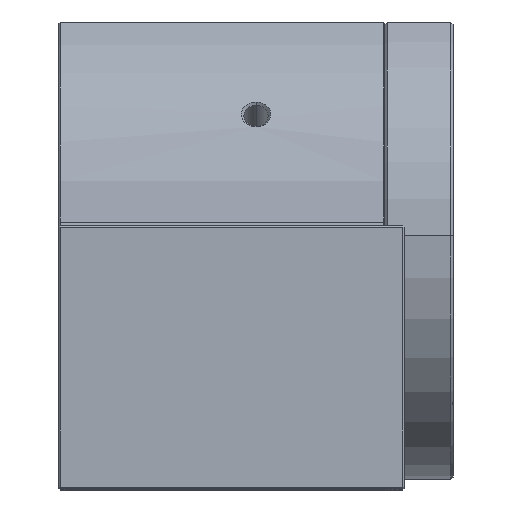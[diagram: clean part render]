
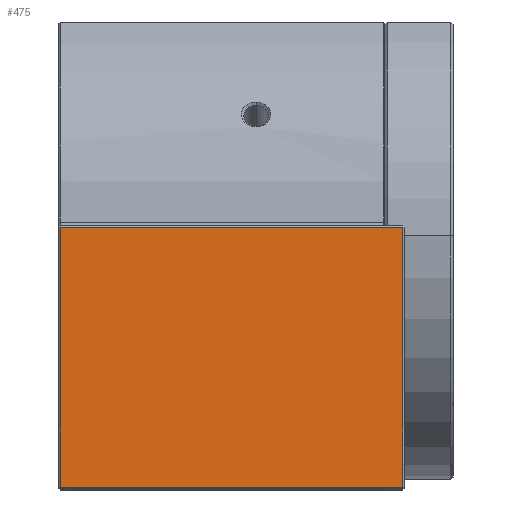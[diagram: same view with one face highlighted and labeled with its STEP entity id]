
A CAD part, top view. The second image highlights one B-rep face of the part: STEP entity #475.
In plain terms, the highlighted planar face has unit normal (0, 0, 1).
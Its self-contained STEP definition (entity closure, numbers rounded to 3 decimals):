
#421 = VERTEX_POINT ( 'NONE', #5076 ) ;
#461 = ORIENTED_EDGE ( 'NONE', *, *, #462, .T. ) ;
#462 = EDGE_CURVE ( 'NONE', #421, #480, #5142, .T. ) ;
#475 = ADVANCED_FACE ( 'NONE', ( #5182 ), #5180, .T. ) ;
#477 = EDGE_LOOP ( 'NONE', ( #478, #482, #485, #461 ) ) ;
#478 = ORIENTED_EDGE ( 'NONE', *, *, #479, .T. ) ;
#479 = EDGE_CURVE ( 'NONE', #480, #481, #5181, .T. ) ;
#480 = VERTEX_POINT ( 'NONE', #5172 ) ;
#481 = VERTEX_POINT ( 'NONE', #5171 ) ;
#482 = ORIENTED_EDGE ( 'NONE', *, *, #483, .T. ) ;
#483 = EDGE_CURVE ( 'NONE', #481, #484, #5170, .T. ) ;
#484 = VERTEX_POINT ( 'NONE', #5166 ) ;
#485 = ORIENTED_EDGE ( 'NONE', *, *, #486, .T. ) ;
#486 = EDGE_CURVE ( 'NONE', #484, #421, #5164, .T. ) ;
#5076 = CARTESIAN_POINT ( 'NONE',  ( -66.7, -51.7, 80. ) ) ;
#5136 = DIRECTION ( 'NONE',  ( 1., 0., 0. ) ) ;
#5137 = VECTOR ( 'NONE', #5136, 1000. ) ;
#5138 = CARTESIAN_POINT ( 'NONE',  ( -67., -51.7, 80. ) ) ;
#5142 = LINE ( 'NONE', #5138, #5137 ) ;
#5161 = DIRECTION ( 'NONE',  ( 0., -1., 0. ) ) ;
#5162 = VECTOR ( 'NONE', #5161, 1000. ) ;
#5163 = CARTESIAN_POINT ( 'NONE',  ( -66.7, -52., 80. ) ) ;
#5164 = LINE ( 'NONE', #5163, #5162 ) ;
#5166 = CARTESIAN_POINT ( 'NONE',  ( -66.7, 1.7, 80. ) ) ;
#5167 = DIRECTION ( 'NONE',  ( -1., 0., 0. ) ) ;
#5168 = VECTOR ( 'NONE', #5167, 1000. ) ;
#5169 = CARTESIAN_POINT ( 'NONE',  ( -67., 1.7, 80. ) ) ;
#5170 = LINE ( 'NONE', #5169, #5168 ) ;
#5171 = CARTESIAN_POINT ( 'NONE',  ( 3.7, 1.7, 80. ) ) ;
#5172 = CARTESIAN_POINT ( 'NONE',  ( 3.7, -51.7, 80. ) ) ;
#5173 = DIRECTION ( 'NONE',  ( 0., 1., 0. ) ) ;
#5174 = VECTOR ( 'NONE', #5173, 1000. ) ;
#5175 = CARTESIAN_POINT ( 'NONE',  ( 3.7, 2., 80. ) ) ;
#5176 = DIRECTION ( 'NONE',  ( 1., 0., 0. ) ) ;
#5177 = DIRECTION ( 'NONE',  ( 0., 0., 1. ) ) ;
#5178 = CARTESIAN_POINT ( 'NONE',  ( -67., 0., 80. ) ) ;
#5179 = AXIS2_PLACEMENT_3D ( 'NONE', #5178, #5177, #5176 ) ;
#5180 = PLANE ( 'NONE',  #5179 ) ;
#5181 = LINE ( 'NONE', #5175, #5174 ) ;
#5182 = FACE_OUTER_BOUND ( 'NONE', #477, .T. ) ;
